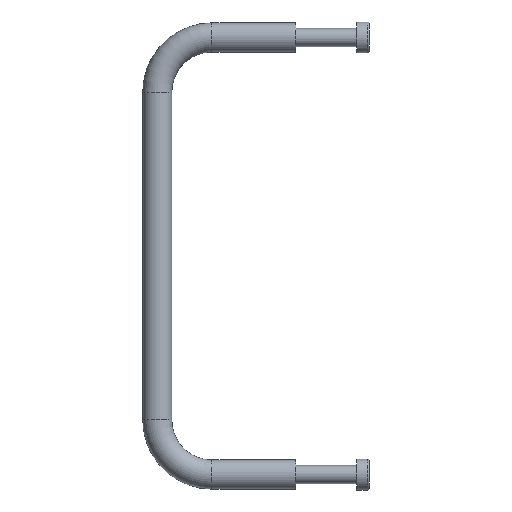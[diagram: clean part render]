
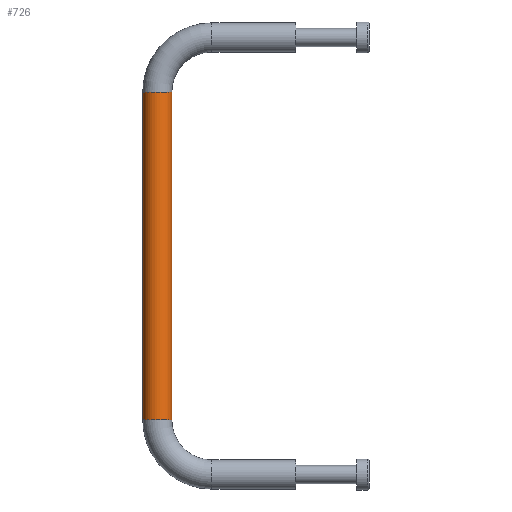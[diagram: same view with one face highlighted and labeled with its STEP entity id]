
A CAD part, left-side view. The second image highlights one B-rep face of the part: STEP entity #726.
In plain terms, the highlighted cylindrical face has radius 4 mm (diameter 8 mm), a partial arc.
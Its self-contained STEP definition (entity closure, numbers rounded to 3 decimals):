
#482=CARTESIAN_POINT('',(-2.,-4.0,-45.0));
#483=VERTEX_POINT('',#482);
#532=CARTESIAN_POINT('',(-2.,4.0,-45.0));
#533=VERTEX_POINT('',#532);
#558=CARTESIAN_POINT('',(-2.,0.0,-45.0));
#559=DIRECTION('',(0.0,0.0,1.0));
#560=DIRECTION('',(0.0,-1.0,0.0));
#561=AXIS2_PLACEMENT_3D('',#558,#559,#560);
#562=CIRCLE('',#561,4.0);
#563=EDGE_CURVE('',#533,#483,#562,.T.);
#575=CARTESIAN_POINT('',(-2.,-4.0,45.0));
#576=VERTEX_POINT('',#575);
#608=CARTESIAN_POINT('',(-2.,4.0,45.0));
#609=VERTEX_POINT('',#608);
#617=CARTESIAN_POINT('',(-2.,0.0,45.0));
#618=DIRECTION('',(0.0,0.0,-1.0));
#619=DIRECTION('',(0.0,-1.0,0.0));
#620=AXIS2_PLACEMENT_3D('',#617,#618,#619);
#621=CIRCLE('',#620,4.0);
#622=EDGE_CURVE('',#576,#609,#621,.T.);
#699=CARTESIAN_POINT('',(-2.,-4.0,45.0));
#700=DIRECTION('',(0.0,0.0,-1.0));
#701=VECTOR('',#700,90.0);
#702=LINE('',#699,#701);
#703=EDGE_CURVE('',#576,#483,#702,.T.);
#710=CARTESIAN_POINT('',(-2.,0.0,0.0));
#711=DIRECTION('',(0.0,0.0,1.0));
#712=DIRECTION('',(0.0,-1.0,0.0));
#713=AXIS2_PLACEMENT_3D('',#710,#711,#712);
#714=CYLINDRICAL_SURFACE('',#713,4.0);
#715=ORIENTED_EDGE('',*,*,#622,.T.);
#716=CARTESIAN_POINT('',(-2.,4.0,-45.0));
#717=DIRECTION('',(0.0,0.0,1.0));
#718=VECTOR('',#717,90.0);
#719=LINE('',#716,#718);
#720=EDGE_CURVE('',#533,#609,#719,.T.);
#721=ORIENTED_EDGE('',*,*,#720,.F.);
#722=ORIENTED_EDGE('',*,*,#563,.T.);
#723=ORIENTED_EDGE('',*,*,#703,.F.);
#724=EDGE_LOOP('',(#715,#721,#722,#723));
#725=FACE_OUTER_BOUND('',#724,.T.);
#726=ADVANCED_FACE('',(#725),#714,.T.);
